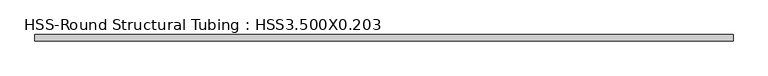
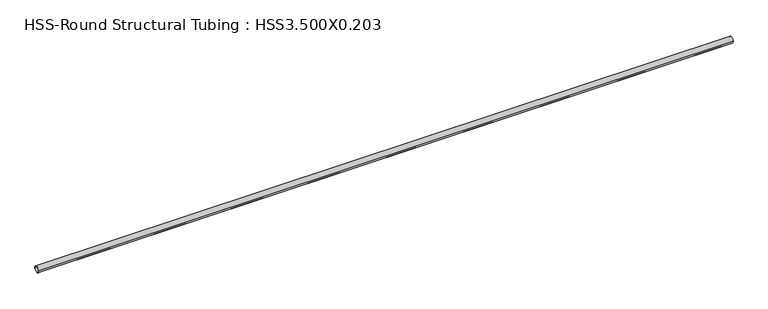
"""IFC4 building model written with IfcOpenShell, lengths in millimetres: member geometry, HSS-Round Structural Tubing : HSS3.500X0.203."""

from ifc_helpers import new_model, si_unit, point, frame, origin, origin_2d, place, context, project, spatial, circle_curve, trimmed, segment, composite_curve, outline, extrude, source, transform, mapped, element, save


def hss_round_structural_tubing_hss3_500x0_203_97989235(model_context):
    return source(origin(), model_context, "Body", "SweptSolid", [
        extrude(outline(composite_curve([segment(trimmed(circle_curve(origin_2d(), 44.45), [point((-44.45, 0.0))], [point((44.45, 0.0))], False, "CARTESIAN"), True, "CONTINUOUS"), segment(trimmed(circle_curve(origin_2d(), 44.45), [point((44.45, 0.0))], [point((-44.45, 0.0))], False, "CARTESIAN"), True, "CONTINUOUS")], self_intersect=False), holes=[composite_curve([segment(trimmed(circle_curve(origin_2d(), 39.6494), [point((39.6494, 0.0))], [point((-39.6494, 0.0))], True, "CARTESIAN"), True, "CONTINUOUS"), segment(trimmed(circle_curve(origin_2d(), 39.6494), [point((-39.6494, 0.0))], [point((39.6494, 0.0))], True, "CARTESIAN"), True, "CONTINUOUS")], self_intersect=False)]), frame((-4957.8024406, 0.0, 0.0), z_axis=(1.0, 0.0, 0.0), x_axis=(0.0, 1.0, 0.0)), (0.0, 0.0, 1.0), 9912.2000067),
    ])


if __name__ == "__main__":
    model = new_model("IFC4")
    model_context = context("Model", 3, world=origin())
    ifc_project = project(units=[si_unit("LENGTHUNIT", "METRE", prefix="MILLI")], contexts=[model_context])
    site = spatial("IfcSite", under=ifc_project)
    building = spatial("IfcBuilding", under=site)
    placement = place(None, origin())
    hss_round_structural_tubing_hss3_500x0_203_shape = hss_round_structural_tubing_hss3_500x0_203_97989235(model_context)
    element("IfcMember", 1, ObjectType="HSS-Round Structural Tubing : HSS3.500X0.203", at=placement, inside=building, context=model_context, shape_type="MappedRepresentation", body=[
        mapped(hss_round_structural_tubing_hss3_500x0_203_shape, transform((0.0, 0.0, 0.0), x_axis=(1.0, 0.0, 0.0), y_axis=(0.0, 1.0, 0.0), z_axis=(0.0, 0.0, 1.0))),
    ])
    save(model, "model.ifc")
